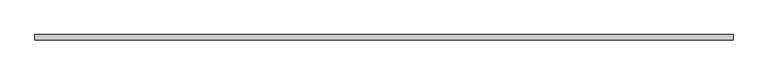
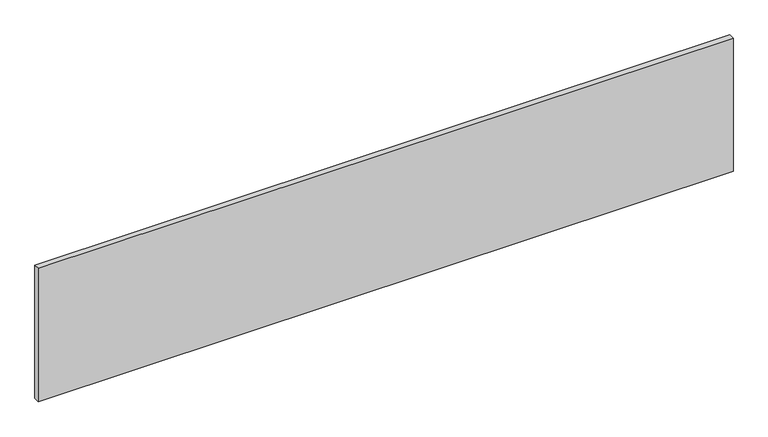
"""IFC4 building model written with IfcOpenShell, lengths in millimetres: plate geometry, Panneau système : Vitrages extérieur."""

from ifc_helpers import new_model, si_unit, origin, origin_with_axes, place, context, project, spatial, polyline, outline, extrude, source, transform, mapped, element, save


def plate_6f0ddf90(model_context):
    return source(origin(), model_context, "Body", "SweptSolid", [
        extrude(outline(polyline([(1515.1048276, -12.0), (-1515.1048276, -12.0), (-1515.1048276, 12.0), (1515.1048276, 12.0), (1515.1048276, -12.0)])), origin_with_axes(), (0.0, 0.0, 1.0), 615.0),
    ])


if __name__ == "__main__":
    model = new_model("IFC4")
    model_context = context("Model", 3, world=origin())
    ifc_project = project(units=[si_unit("LENGTHUNIT", "METRE", prefix="MILLI")], contexts=[model_context])
    site = spatial("IfcSite", under=ifc_project)
    building = spatial("IfcBuilding", under=site)
    placement = place(None, origin())
    plate_shape = plate_6f0ddf90(model_context)
    element("IfcPlate", 1, ObjectType="Panneau système : Vitrages extérieur", at=placement, inside=building, context=model_context, shape_type="MappedRepresentation", body=[
        mapped(plate_shape, transform((0.0, 0.0, 0.0), x_axis=(1.0, 0.0, 0.0), y_axis=(0.0, 1.0, 0.0), z_axis=(0.0, 0.0, 1.0))),
    ])
    save(model, "model.ifc")
